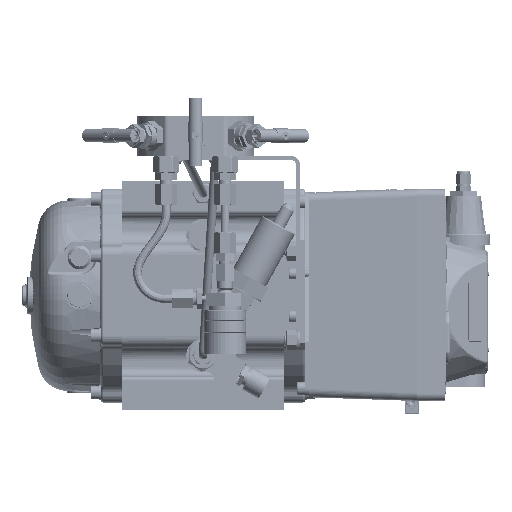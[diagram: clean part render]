
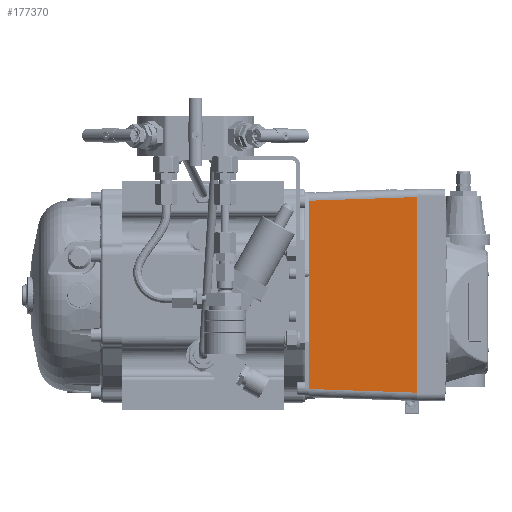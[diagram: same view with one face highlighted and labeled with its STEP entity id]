
A CAD part, top view. The second image highlights one B-rep face of the part: STEP entity #177370.
In plain terms, the highlighted planar face has unit normal (-0.034, 0, 0.999).
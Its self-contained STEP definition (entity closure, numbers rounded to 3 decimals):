
#177370=ADVANCED_FACE('',(#246926),#246928,.T.);
#246926=FACE_BOUND('',#246927,.T.);
#246927=EDGE_LOOP('',(#276390,#276391,#276392,#276393));
#246928=PLANE('',#246929);
#246929=AXIS2_PLACEMENT_3D('',#246930,#246931,#246932);
#246930=CARTESIAN_POINT('',(79.5,76.5,358.926));
#246931=DIRECTION('',(-0.034,0.,0.999));
#246932=DIRECTION('',(0.,-1.,0.));
#276390=ORIENTED_EDGE('',*,*,#324103,.F.);
#276391=ORIENTED_EDGE('',*,*,#324035,.T.);
#276392=ORIENTED_EDGE('',*,*,#324104,.T.);
#276393=ORIENTED_EDGE('',*,*,#323997,.F.);
#323997=EDGE_CURVE('',#478806,#478808,#478809,.T.);
#324035=EDGE_CURVE('',#478882,#478880,#478883,.T.);
#324103=EDGE_CURVE('',#478882,#478806,#478996,.T.);
#324104=EDGE_CURVE('',#478880,#478808,#478997,.T.);
#478806=VERTEX_POINT('',#483209);
#478808=VERTEX_POINT('',#483214);
#478809=LINE('',#483215,#483216);
#478880=VERTEX_POINT('',#483381);
#478882=VERTEX_POINT('',#483386);
#478883=LINE('',#483387,#483388);
#478996=LINE('',#484239,#484240);
#478997=LINE('',#484242,#484243);
#483209=CARTESIAN_POINT('',(160.5,73.253,361.676));
#483214=CARTESIAN_POINT('',(160.5,-73.253,361.676));
#483215=CARTESIAN_POINT('',(160.5,73.253,361.676));
#483216=VECTOR('',#483217,1.);
#483217=DIRECTION('',(0.,-1.,0.));
#483381=CARTESIAN_POINT('',(79.5,-70.503,358.926));
#483386=CARTESIAN_POINT('',(79.5,70.503,358.926));
#483387=CARTESIAN_POINT('',(79.5,70.503,358.926));
#483388=VECTOR('',#483389,1.);
#483389=DIRECTION('',(0.,-1.,0.));
#484239=CARTESIAN_POINT('',(79.5,70.503,358.926));
#484240=VECTOR('',#484241,1.);
#484241=DIRECTION('',(0.999,0.034,0.034));
#484242=CARTESIAN_POINT('',(79.5,-70.503,358.926));
#484243=VECTOR('',#484244,1.);
#484244=DIRECTION('',(0.999,-0.034,0.034));
